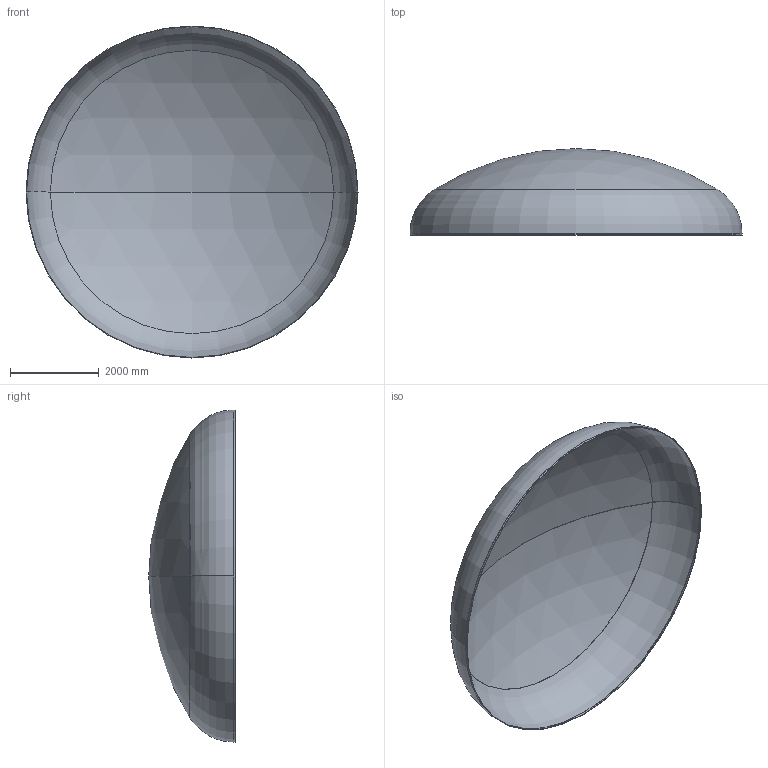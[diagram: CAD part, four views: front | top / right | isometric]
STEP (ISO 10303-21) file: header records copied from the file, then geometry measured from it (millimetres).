
FILE_DESCRIPTION (( 'STEP AP203' ), '1' );
FILE_NAME ('DIN 28013 Korbbogenform_-_Boden DIN 28013 - 7500 x 40 - I - s=11.step', '2016-07-04T10:51:19', ( '' ), ( '' ), 'SwSTEP 2.0', 'SolidWorks 2013', '' );
FILE_SCHEMA (( 'CONFIG_CONTROL_DESIGN' ));
Length unit declared in the file: millimetre
Products named in the file (1): DIN 28013 Korbbogenform_-_Boden DIN 28013 - 7500 x 40 - I - s=11
Bounding box: 7500 x 1952.59 x 7500 mm (x, y, z)
Volume: 682172804.1 mm3; surface area: 124290422.1 mm2
Topology: 1 solids, 1 shells, 13 faces, 24 edges, 14 vertices
Faces by surface type: torus 4, cylinder 4, sphere 4, plane 1
Entity records: 407 total; most frequent: DIRECTION 72, CARTESIAN_POINT 52, ORIENTED_EDGE 48, AXIS2_PLACEMENT_3D 34, EDGE_CURVE 24, CIRCLE 20, VERTEX_POINT 14, EDGE_LOOP 14
